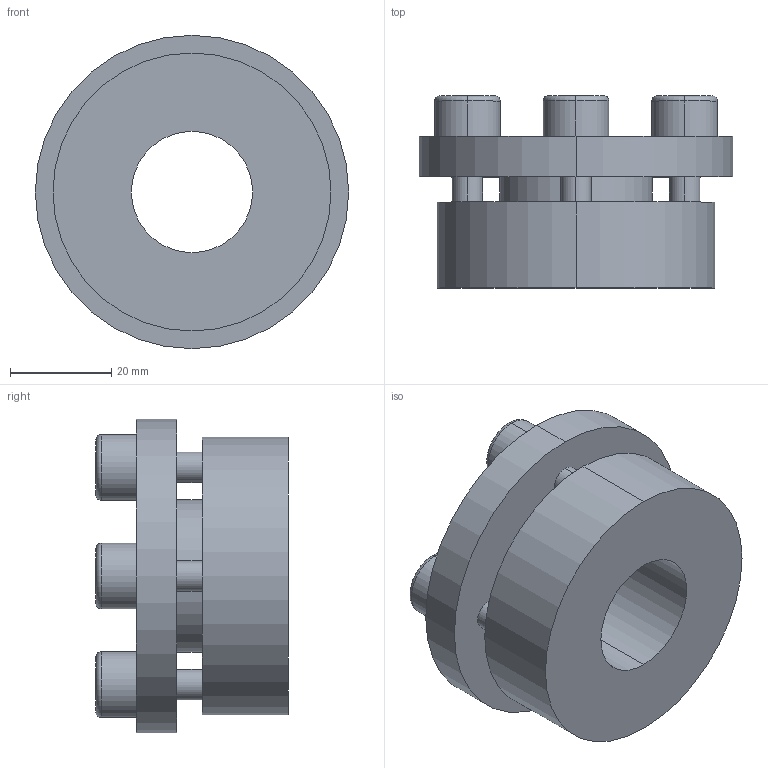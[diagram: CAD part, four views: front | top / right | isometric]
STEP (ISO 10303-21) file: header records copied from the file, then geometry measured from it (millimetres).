
FILE_DESCRIPTION (( 'STEP AP203' ), '1' );
FILE_NAME ('PL-H4 24-55.STEP', '2021-10-23T01:18:45', ( '' ), ( '' ), 'SwSTEP 2.0', 'SolidWorks 2018', '' );
FILE_SCHEMA (( 'CONFIG_CONTROL_DESIGN' ));
Length unit declared in the file: millimetre
Products named in the file (1): PL-H4 24-55
Bounding box: 62 x 38 x 62 mm (x, y, z)
Volume: 58831.8 mm3; surface area: 17402.7 mm2
Topology: 1 solids, 1 shells, 68 faces, 160 edges, 104 vertices
Faces by surface type: plane 36, cylinder 24, torus 8
Entity records: 2061 total; most frequent: DIRECTION 362, CARTESIAN_POINT 333, ORIENTED_EDGE 320, EDGE_CURVE 160, AXIS2_PLACEMENT_3D 133, VERTEX_POINT 104, LINE 96, VECTOR 96
